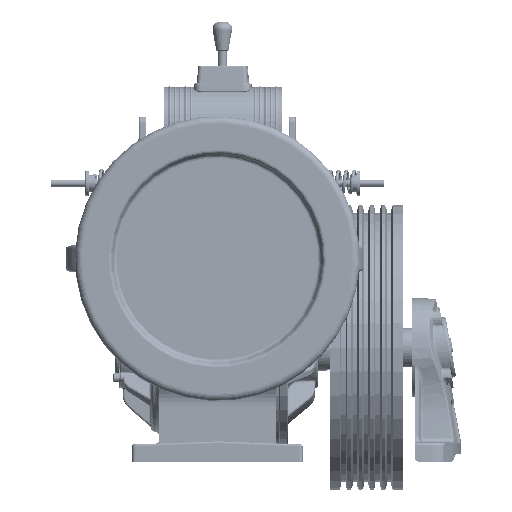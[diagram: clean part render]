
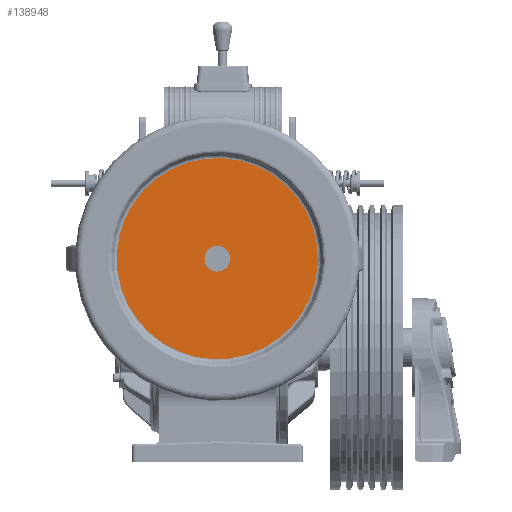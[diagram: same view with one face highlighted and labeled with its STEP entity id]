
A CAD part, front view. The second image highlights one B-rep face of the part: STEP entity #138948.
In plain terms, the highlighted planar face has unit normal (0, -1, 0).
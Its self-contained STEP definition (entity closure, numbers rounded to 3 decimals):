
#535 = AXIS2_PLACEMENT_3D ( 'NONE', #146864, #180480, #162610 ) ;
#3096 = DIRECTION ( 'NONE',  ( -0.051, 0., -0.999 ) ) ;
#8321 = FACE_BOUND ( 'NONE', #67174, .T. ) ;
#9855 = AXIS2_PLACEMENT_3D ( 'NONE', #201351, #31279, #168913 ) ;
#13519 = AXIS2_PLACEMENT_3D ( 'NONE', #88070, #108127, #3096 ) ;
#26966 = CARTESIAN_POINT ( 'NONE',  ( -233.748, -443.209, 1285.066 ) ) ;
#27905 = CARTESIAN_POINT ( 'NONE',  ( -226.507, -443.209, 1426.22 ) ) ;
#30024 = AXIS2_PLACEMENT_3D ( 'NONE', #26966, #79475, #147758 ) ;
#31279 = DIRECTION ( 'NONE',  ( 0., -1., 0. ) ) ;
#34674 = EDGE_CURVE ( 'NONE', #138930, #114391, #84822, .T. ) ;
#44037 = DIRECTION ( 'NONE',  ( -0.051, 0., -0.999 ) ) ;
#59458 = ORIENTED_EDGE ( 'NONE', *, *, #108411, .F. ) ;
#61025 = EDGE_CURVE ( 'NONE', #171909, #105222, #162185, .T. ) ;
#61634 = ORIENTED_EDGE ( 'NONE', *, *, #34674, .F. ) ;
#67174 = EDGE_LOOP ( 'NONE', ( #61634, #59458 ) ) ;
#79475 = DIRECTION ( 'NONE',  ( 0., -1., 0. ) ) ;
#84822 = CIRCLE ( 'NONE', #9855, 18.111 ) ;
#88070 = CARTESIAN_POINT ( 'NONE',  ( -233.748, -443.209, 1285.066 ) ) ;
#94781 = ORIENTED_EDGE ( 'NONE', *, *, #131405, .T. ) ;
#96905 = CIRCLE ( 'NONE', #535, 141.34 ) ;
#104788 = CARTESIAN_POINT ( 'NONE',  ( -240.989, -443.209, 1143.912 ) ) ;
#105222 = VERTEX_POINT ( 'NONE', #104788 ) ;
#105414 = CARTESIAN_POINT ( 'NONE',  ( -234.676, -443.209, 1266.979 ) ) ;
#108127 = DIRECTION ( 'NONE',  ( 0., -1., 0. ) ) ;
#108411 = EDGE_CURVE ( 'NONE', #114391, #138930, #210018, .T. ) ;
#108927 = CARTESIAN_POINT ( 'NONE',  ( -232.82, -443.209, 1303.153 ) ) ;
#114391 = VERTEX_POINT ( 'NONE', #105414 ) ;
#129060 = DIRECTION ( 'NONE',  ( 0., -1., 0. ) ) ;
#131405 = EDGE_CURVE ( 'NONE', #105222, #171909, #96905, .T. ) ;
#132337 = FACE_OUTER_BOUND ( 'NONE', #206598, .T. ) ;
#138930 = VERTEX_POINT ( 'NONE', #108927 ) ;
#138948 = ADVANCED_FACE ( 'NONE', ( #132337, #8321 ), #216309, .T. ) ;
#143978 = ORIENTED_EDGE ( 'NONE', *, *, #61025, .T. ) ;
#146864 = CARTESIAN_POINT ( 'NONE',  ( -233.748, -443.209, 1285.066 ) ) ;
#147758 = DIRECTION ( 'NONE',  ( -0.051, 0., -0.999 ) ) ;
#150785 = AXIS2_PLACEMENT_3D ( 'NONE', #214126, #129060, #44037 ) ;
#162185 = CIRCLE ( 'NONE', #30024, 141.34 ) ;
#162610 = DIRECTION ( 'NONE',  ( -0.051, 0., -0.999 ) ) ;
#168913 = DIRECTION ( 'NONE',  ( -0.051, 0., -0.999 ) ) ;
#171909 = VERTEX_POINT ( 'NONE', #27905 ) ;
#180480 = DIRECTION ( 'NONE',  ( 0., -1., 0. ) ) ;
#201351 = CARTESIAN_POINT ( 'NONE',  ( -233.748, -443.209, 1285.066 ) ) ;
#206598 = EDGE_LOOP ( 'NONE', ( #94781, #143978 ) ) ;
#210018 = CIRCLE ( 'NONE', #13519, 18.111 ) ;
#214126 = CARTESIAN_POINT ( 'NONE',  ( -92.594, -443.209, 1277.825 ) ) ;
#216309 = PLANE ( 'NONE',  #150785 ) ;
